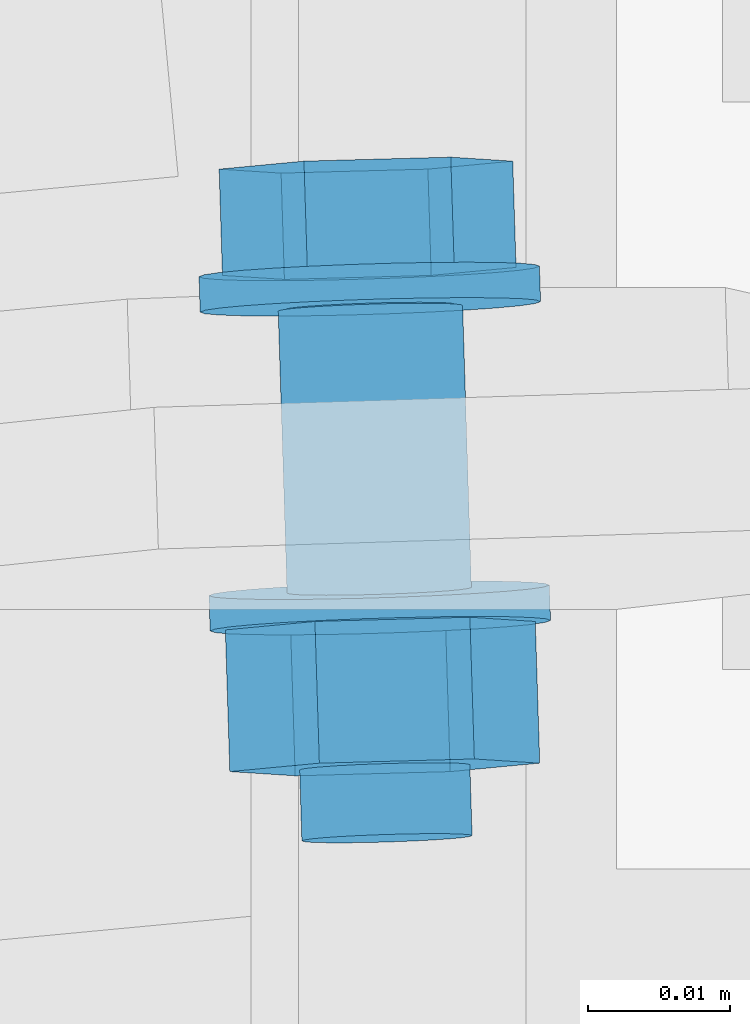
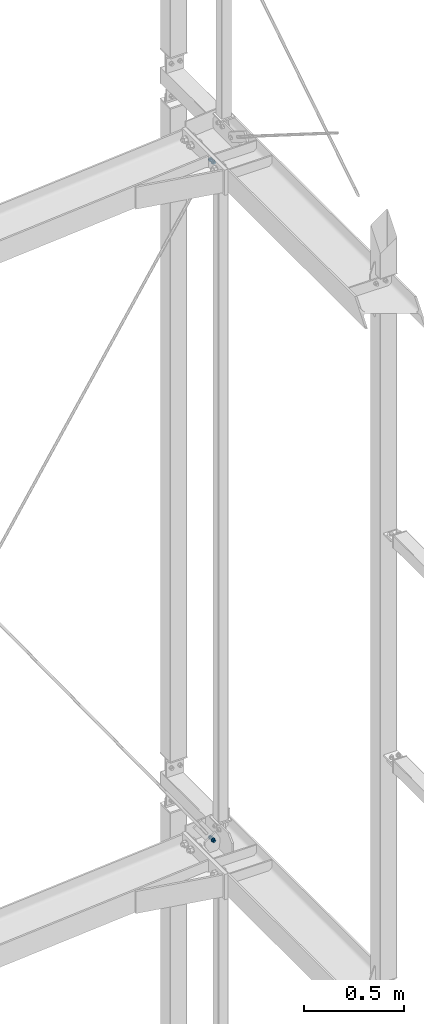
# One storey, part 268 of 271: 2 mechanical fasteners, 2 elements without a shape of their own.
"""IFC2X3 building model written with IfcOpenShell, lengths in millimetres."""

from ifc_helpers import new_model, si_unit, frame, origin_with_axes, origin_2d_with_axis, place, context, subcontext, project, spatial, polyline, circle, outline, extrude, source, transform, mapped, material, type_object, element, aggregate, save


model = new_model("IFC2X3")

# Units and contexts
model_context = context("Model", 3, precision=1e-05, world=origin_with_axes())
body_context = subcontext(model_context, "Body", "Model", "MODEL_VIEW")
ifc_project = project(units=[si_unit("LENGTHUNIT", "METRE", prefix="MILLI"), si_unit("AREAUNIT", "SQUARE_METRE"), si_unit("VOLUMEUNIT", "CUBIC_METRE"), si_unit("MASSUNIT", "GRAM", prefix="KILO"), si_unit("TIMEUNIT", "SECOND"), si_unit("PLANEANGLEUNIT", "RADIAN"), si_unit("SOLIDANGLEUNIT", "STERADIAN"), si_unit("THERMODYNAMICTEMPERATUREUNIT", "DEGREE_CELSIUS"), si_unit("LUMINOUSINTENSITYUNIT", "LUMEN")], contexts=[model_context])

# Site, building, storey
site_placement = place(None, origin_with_axes())
site = spatial("IfcSite", under=ifc_project, at=site_placement, Name="Undefined", CompositionType="ELEMENT")
building_placement = place(site_placement, origin_with_axes())
building = spatial("IfcBuilding", under=site, at=building_placement, Name="Undefined", CompositionType="ELEMENT")
storey_placement = place(building_placement, origin_with_axes())
storey = spatial("IfcBuildingStorey", under=building, at=storey_placement, Name="Undefined", CompositionType="ELEMENT", Elevation=0.0)

# Assembly, mechanical fastener
assembly_1_placement = place(storey_placement, origin_with_axes())
assembly_1 = element("IfcElementAssembly", 1, at=assembly_1_placement, inside=storey, AssemblyPlace="NOTDEFINED", PredefinedType="RIGID_FRAME")
ifc_material = material(Name="Undefined")
mechanical_fastener_type = type_object("IfcMechanicalFastenerType", Name="Bolt assembly")
shared_shape = source(origin_with_axes(), body_context, "Body", "SweptSolid", [
    extrude(circle(Radius=6.5, at=origin_2d_with_axis()), frame((0.0, -5.1, 0.0), z_axis=(0.0, 1.0, 0.0), x_axis=(1.0, 0.0, 0.0)), (0.0, 0.0, 1.0), 10.1),
    extrude(circle(Radius=6.5, at=origin_2d_with_axis()), frame((0.0, -14.9000000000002, 0.0), z_axis=(0.0, 1.0, 0.0), x_axis=(1.0, 0.0, 0.0)), (0.0, 0.0, 1.0), 10.0),
    extrude(outline(polyline([(10.39230484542, 0.0), (5.19615242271, 9.00000000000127), (-5.19615242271, 9.00000000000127), (-10.39230484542, 0.0), (-5.19615242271, -9.00000000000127), (5.19615242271, -9.00000000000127), (10.39230484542, 0.0)])), frame((0.0, -25.0000000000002, 0.0), z_axis=(0.0, 1.0, 0.0), x_axis=(1.0, 0.0, 0.0)), (0.0, 0.0, 1.0), 7.5),
    extrude(circle(Radius=6.0, at=origin_2d_with_axis()), frame((0.0, -17.5000000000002, 0.0), z_axis=(0.0, 1.0, 0.0), x_axis=(1.0, 0.0, 0.0)), (0.0, 0.0, 1.0), 40.0),
    extrude(circle(Radius=12.0, at=origin_2d_with_axis()), frame((0.0, -17.5000000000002, 0.0), z_axis=(0.0, 1.0, 0.0), x_axis=(1.0, 0.0, 0.0)), (0.0, 0.0, 1.0), 2.5),
    extrude(circle(Radius=12.0, at=origin_2d_with_axis()), frame((0.0, 5.00000000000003, 0.0), z_axis=(0.0, 1.0, 0.0), x_axis=(1.0, 0.0, 0.0)), (0.0, 0.0, 1.0), 2.5),
    extrude(outline(polyline([(10.96965511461, 0.0), (5.484827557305, 9.50000000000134), (-5.484827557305, 9.50000000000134), (-10.96965511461, 0.0), (-5.484827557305, -9.50000000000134), (5.484827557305, -9.50000000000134), (10.96965511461, 0.0)])), frame((0.0, 7.50000000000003, 0.0), z_axis=(0.0, 1.0, 0.0), x_axis=(1.0, 0.0, 0.0)), (0.0, 0.0, 1.0), 10.0),
])
mechanical_fastener_1_placement = place(assembly_1_placement, frame((12516.8902455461, 4276.82262382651, 18563.6899755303), z_axis=(-0.817327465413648, -2.23044480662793e-11, 0.576173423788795), x_axis=(-0.575326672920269, -0.0541946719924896, -0.816126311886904)))
mechanical_fastener_1 = element("IfcMechanicalFastener", 2, at=mechanical_fastener_1_placement, type_object=mechanical_fastener_type, material=ifc_material, Name="Bolt assembly", NominalDiameter=12.0, NominalLength=40.0, context=body_context, shape_type="MappedRepresentation", body=[
    mapped(shared_shape, transform((0.0, 0.0, 0.0))),
])
aggregate(assembly_1, [mechanical_fastener_1])

assembly_2_placement = place(storey_placement, origin_with_axes())
assembly_2 = element("IfcElementAssembly", 3, at=assembly_2_placement, inside=storey, AssemblyPlace="NOTDEFINED", PredefinedType="RIGID_FRAME")
mechanical_fastener_2_placement = place(assembly_2_placement, frame((12516.8902461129, 4276.82262382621, 14405.0100234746), z_axis=(0.817327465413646, 2.23044480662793e-11, 0.576173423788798), x_axis=(-0.575326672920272, -0.054194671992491, 0.816126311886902)))
mechanical_fastener_2 = element("IfcMechanicalFastener", 4, at=mechanical_fastener_2_placement, type_object=mechanical_fastener_type, material=ifc_material, Name="Bolt assembly", NominalDiameter=12.0, NominalLength=40.0, context=body_context, shape_type="MappedRepresentation", body=[
    mapped(shared_shape, transform((0.0, 0.0, 0.0))),
])
aggregate(assembly_2, [mechanical_fastener_2])

save(model, "model.ifc")
